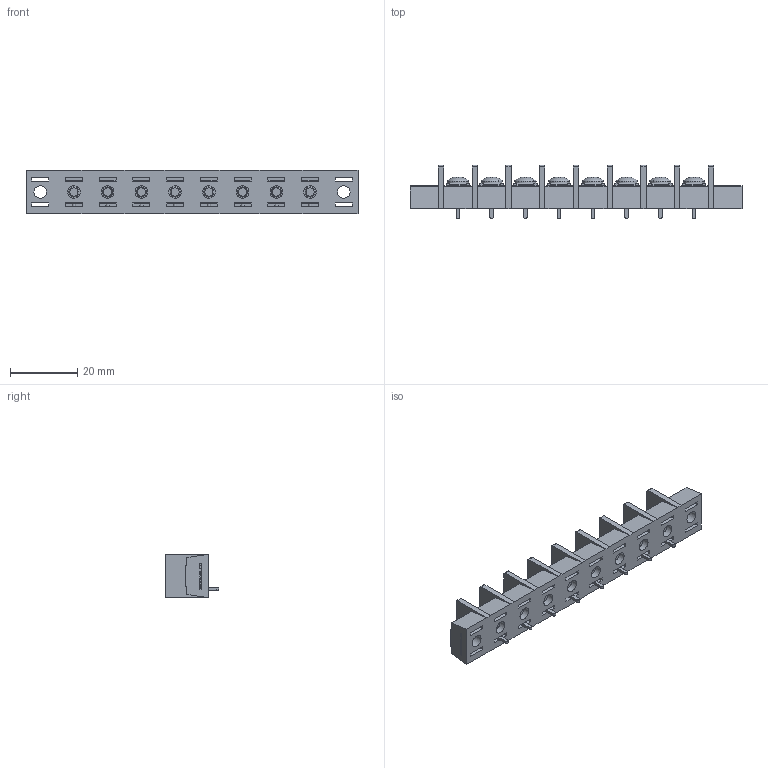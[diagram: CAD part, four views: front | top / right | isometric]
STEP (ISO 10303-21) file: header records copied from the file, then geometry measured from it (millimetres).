
FILE_DESCRIPTION(/* description */ ('Alibre Inc.'),/* implementation_level */ '2;1');
FILE_NAME(/* name */ 'export0',/* time_stamp */ '2015-10-22T20:06:26+09:00',/* author */ (''),/* organization */ (''),/* preprocessor_version */ 'ST-DEVELOPER v14',/* originating_system */ 'Alibre',/* authorisation */ '');
FILE_SCHEMA (('CONFIG_CONTROL_DESIGN'));
Length unit declared in the file: centimetre
Products named in the file (1): ID_1
Bounding box: 98.4 x 15.8 x 12.8 mm (x, y, z)
Volume: 8544.7 mm3; surface area: 9805.4 mm2
Topology: 1 solids, 137 shells, 2660 faces, 6838 edges, 4526 vertices
Faces by surface type: plane 1990, bspline 520, cylinder 86, cone 40, torus 16, sphere 8
Full cylindrical faces by diameter (mm): 3 x16, 3.7 x10, 4.6 x10, 6.3 x8
Entity records: 76995 total; most frequent: CARTESIAN_POINT 18615, ORIENTED_EDGE 13488, DIRECTION 8070, EDGE_CURVE 6744, VECTOR 5202, LINE 5202, VERTEX_POINT 4500, EDGE_LOOP 2926
